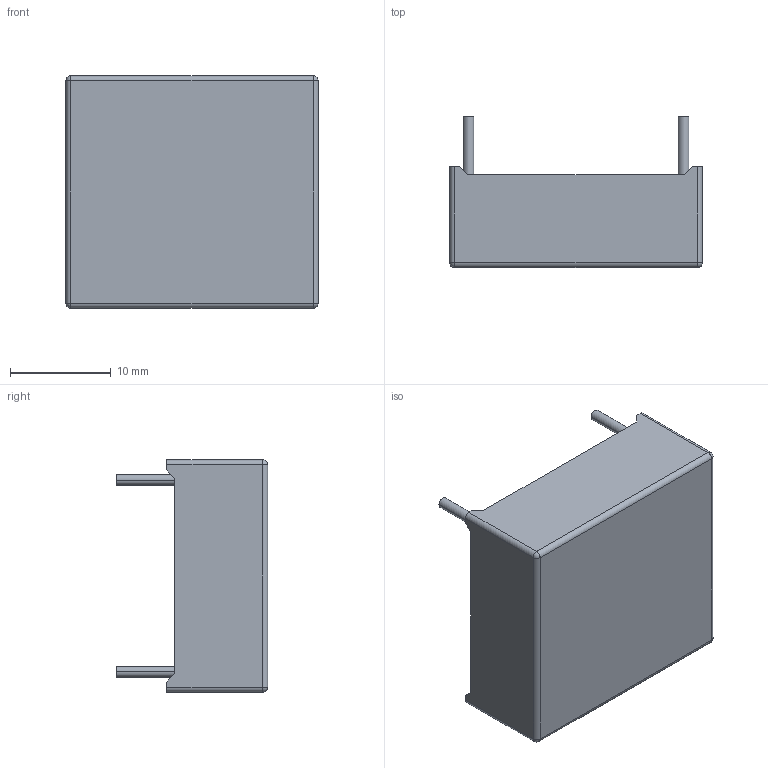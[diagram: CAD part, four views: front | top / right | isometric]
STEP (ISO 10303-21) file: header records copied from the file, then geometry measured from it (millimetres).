
FILE_DESCRIPTION((''),'2;1');
FILE_NAME('TFMOV20S151L-3-001','2020-08-11T',('SET-01114'),(''),'PRO/ENGINEER BY PARAMETRIC TECHNOLOGY CORPORATION, 2012310','PRO/ENGINEER BY PARAMETRIC TECHNOLOGY CORPORATION, 2012310','');
FILE_SCHEMA(('CONFIG_CONTROL_DESIGN','SHAPE_APPEARANCE_LAYERS_GROUPS'));
Length unit declared in the file: millimetre
Products named in the file (1): TFMOV20S151L-3-001
Bounding box: 25 x 15 x 23 mm (x, y, z)
Volume: 1836.1 mm3; surface area: 3678.9 mm2
Topology: 1 solids, 2 shells, 105 faces, 270 edges, 164 vertices
Faces by surface type: plane 59, cylinder 30, sphere 16
Entity records: 3927 total; most frequent: CARTESIAN_POINT 580, DIRECTION 536, ORIENTED_EDGE 508, PRESENTATION_STYLE_ASSIGNMENT 255, STYLED_ITEM 255, CURVE_STYLE 254, EDGE_CURVE 254, AXIS2_PLACEMENT_3D 181
